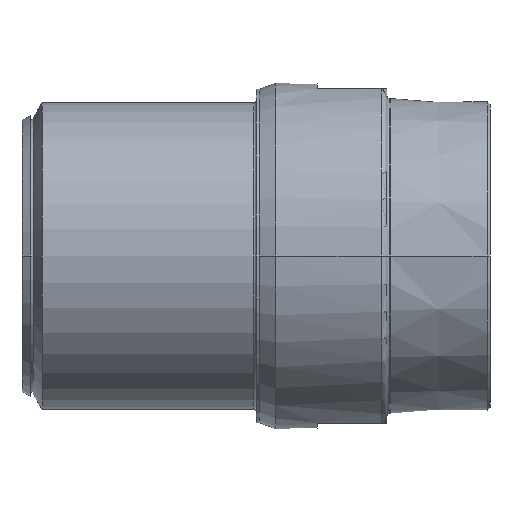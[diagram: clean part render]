
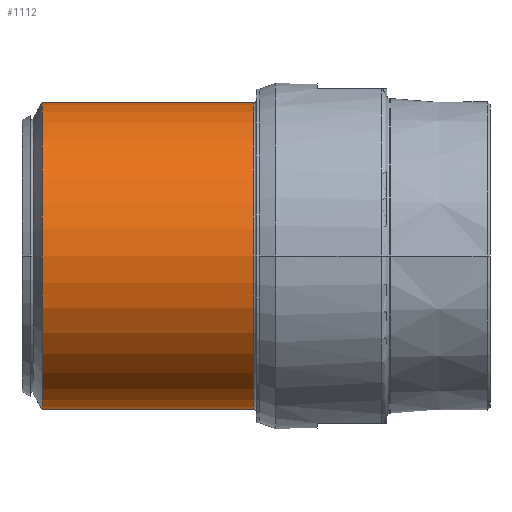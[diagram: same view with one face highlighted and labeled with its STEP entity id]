
A CAD part, front view. The second image highlights one B-rep face of the part: STEP entity #1112.
In plain terms, the highlighted cylindrical face has radius 55 mm (diameter 110 mm), a partial arc.
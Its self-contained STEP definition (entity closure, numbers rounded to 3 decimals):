
#19 = EDGE_CURVE ( 'NONE', #1292, #1258, #541, .T. ) ;
#20 = EDGE_CURVE ( 'NONE', #1292, #1248, #888, .T. ) ;
#24 = EDGE_CURVE ( 'NONE', #1258, #1274, #902, .T. ) ;
#73 = EDGE_CURVE ( 'NONE', #1248, #1274, #461, .T. ) ;
#158 = EDGE_LOOP ( 'NONE', ( #1139, #178, #162, #161 ) ) ;
#161 = ORIENTED_EDGE ( 'NONE', *, *, #73, .F. ) ;
#162 = ORIENTED_EDGE ( 'NONE', *, *, #24, .T. ) ;
#178 = ORIENTED_EDGE ( 'NONE', *, *, #19, .T. ) ;
#261 = CARTESIAN_POINT ( 'NONE',  ( 7.185, 0., -55. ) ) ;
#268 = CARTESIAN_POINT ( 'NONE',  ( 83.131, 0., 55. ) ) ;
#280 = CARTESIAN_POINT ( 'NONE',  ( 7.185, 0., 55. ) ) ;
#284 = CARTESIAN_POINT ( 'NONE',  ( 83.131, 0., -55. ) ) ;
#364 = AXIS2_PLACEMENT_3D ( 'NONE', #796, #792, #799 ) ;
#410 = VECTOR ( 'NONE', #892, 1000. ) ;
#441 = AXIS2_PLACEMENT_3D ( 'NONE', #1074, #1075, #1076 ) ;
#461 = CIRCLE ( 'NONE', #441, 55. ) ;
#533 = VECTOR ( 'NONE', #906, 1000. ) ;
#536 = AXIS2_PLACEMENT_3D ( 'NONE', #889, #890, #891 ) ;
#541 = CIRCLE ( 'NONE', #536, 55. ) ;
#792 = DIRECTION ( 'NONE',  ( -1., 0., 0. ) ) ;
#795 = FACE_OUTER_BOUND ( 'NONE', #158, .T. ) ;
#796 = CARTESIAN_POINT ( 'NONE',  ( -5.267, 0., 0. ) ) ;
#798 = CYLINDRICAL_SURFACE ( 'NONE', #364, 55. ) ;
#799 = DIRECTION ( 'NONE',  ( 0., 0., 1. ) ) ;
#881 = CARTESIAN_POINT ( 'NONE',  ( -5.267, 0., 55. ) ) ;
#884 = CARTESIAN_POINT ( 'NONE',  ( -5.267, 0., -55. ) ) ;
#888 = LINE ( 'NONE', #884, #410 ) ;
#889 = CARTESIAN_POINT ( 'NONE',  ( 83.131, 0., 0. ) ) ;
#890 = DIRECTION ( 'NONE',  ( -1., 0., 0. ) ) ;
#891 = DIRECTION ( 'NONE',  ( 0., 0., 1. ) ) ;
#892 = DIRECTION ( 'NONE',  ( -1., 0., 0. ) ) ;
#902 = LINE ( 'NONE', #881, #533 ) ;
#906 = DIRECTION ( 'NONE',  ( -1., 0., 0. ) ) ;
#1074 = CARTESIAN_POINT ( 'NONE',  ( 7.185, 0., 0. ) ) ;
#1075 = DIRECTION ( 'NONE',  ( -1., 0., 0. ) ) ;
#1076 = DIRECTION ( 'NONE',  ( 0., 0., -1. ) ) ;
#1112 = ADVANCED_FACE ( 'NONE', ( #795 ), #798, .T. ) ;
#1139 = ORIENTED_EDGE ( 'NONE', *, *, #20, .F. ) ;
#1248 = VERTEX_POINT ( 'NONE', #261 ) ;
#1258 = VERTEX_POINT ( 'NONE', #268 ) ;
#1274 = VERTEX_POINT ( 'NONE', #280 ) ;
#1292 = VERTEX_POINT ( 'NONE', #284 ) ;
